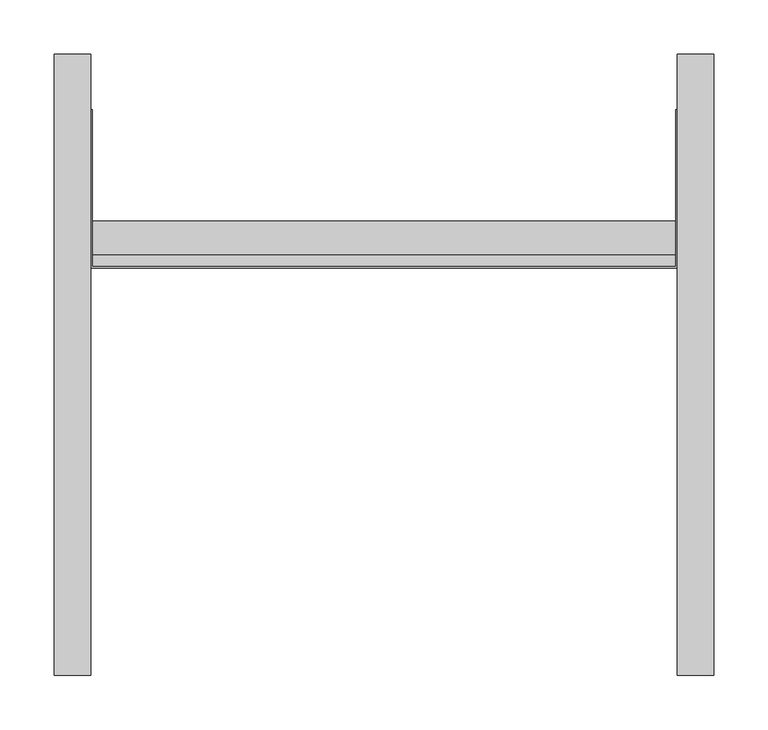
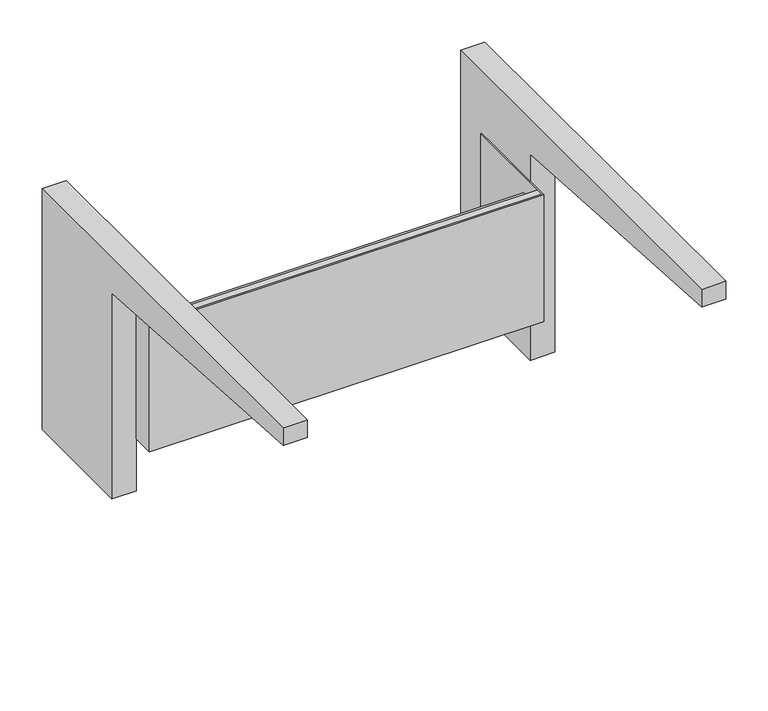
"""IFC4 building model written with IfcOpenShell, lengths in millimetres: furniture geometry."""

from ifc_helpers import new_model, si_unit, point, frame, frame_2d, origin, place, context, project, spatial, polyline, circle_curve, trimmed, segment, composite_curve, outline, extrude, source, transform, mapped, element, save


def furniture_e85cce18(model_context):
    return source(origin(), model_context, "Body", "SweptSolid", [
        extrude(outline(composite_curve([segment(polyline([(177.8, 882.65), (177.8, 533.4), (12.7, 533.4), (12.7, 831.85)]), True, "CONTINUOUS"), segment(trimmed(circle_curve(frame_2d((-388.143904, -2317.7524637)), 3175.0073252), [point((12.7, 831.85))], [point((-393.7, 857.25))], True, "CARTESIAN"), True, "CONTINUOUS"), segment(polyline([(-393.7, 857.25), (-393.7, 882.65), (177.8, 882.65)]), True, "CONTINUOUS")], self_intersect=False)), frame((269.875, 0.0, 0.0), z_axis=(1.0, 0.0, 0.0), x_axis=(0.0, 1.0, 0.0)), (0.0, 0.0, 1.0), 33.3375),
        extrude(outline(composite_curve([segment(polyline([(-393.7, 857.25), (-393.7, 882.65), (177.8, 882.65), (177.8, 533.4), (12.7, 533.4), (12.7, 831.85)]), True, "CONTINUOUS"), segment(trimmed(circle_curve(frame_2d((-388.143904, -2317.7524637)), 3175.0073252), [point((12.7, 831.85))], [point((-393.7, 857.25))], True, "CARTESIAN"), True, "CONTINUOUS")], self_intersect=False)), frame((-303.2125, 0.0, 0.0), z_axis=(1.0, 0.0, 0.0), x_axis=(0.0, 1.0, 0.0)), (0.0, 0.0, 1.0), 33.3375),
        extrude(outline(polyline([(-268.2875, -17.4625), (268.2875, -17.4625), (268.2875, 127.0), (269.875, 127.0), (269.875, -19.05), (-269.875, -19.05), (-269.875, 127.0), (-268.2875, 127.0), (-268.2875, -17.4625)])), frame((0.0, 0.0, 608.9396), z_axis=(0.0, 0.0, 1.0), x_axis=(1.0, 0.0, 0.0)), (0.0, 0.0, 1.0), 184.15),
        extrude(outline(polyline([(-7.9057553, 792.29585), (-17.4625, 792.29585), (-17.4625, 770.07085), (24.1300012, 770.07085), (24.1300012, 608.9396), (-19.05, 608.9396), (-19.05, 793.0896), (-7.1120053, 793.0896), (-7.1120053, 786.0791994), (-7.9057553, 786.0791994), (-7.9057553, 792.29585)])), frame((-269.875, 0.0, 0.0), z_axis=(1.0, 0.0, 0.0), x_axis=(0.0, 1.0, 0.0)), (0.0, 0.0, 1.0), 539.75),
    ])


if __name__ == "__main__":
    model = new_model("IFC4")
    model_context = context("Model", 3, world=origin())
    ifc_project = project(units=[si_unit("LENGTHUNIT", "METRE", prefix="MILLI")], contexts=[model_context])
    site = spatial("IfcSite", under=ifc_project)
    building = spatial("IfcBuilding", under=site)
    placement = place(None, origin())
    furniture_shape = furniture_e85cce18(model_context)
    element("IfcFurniture", 1, ObjectType="HermanMiller_CoStruc_C2140W_WorkSurfaceSupport_ComponentAdaptor : 14\"H x 24\"D x 24\"W", at=placement, inside=building, context=model_context, shape_type="MappedRepresentation", body=[
        mapped(furniture_shape, transform((0.0, 0.0, 0.0), x_axis=(1.0, 0.0, 0.0), y_axis=(0.0, 1.0, 0.0), z_axis=(0.0, 0.0, 1.0))),
    ])
    save(model, "model.ifc")
